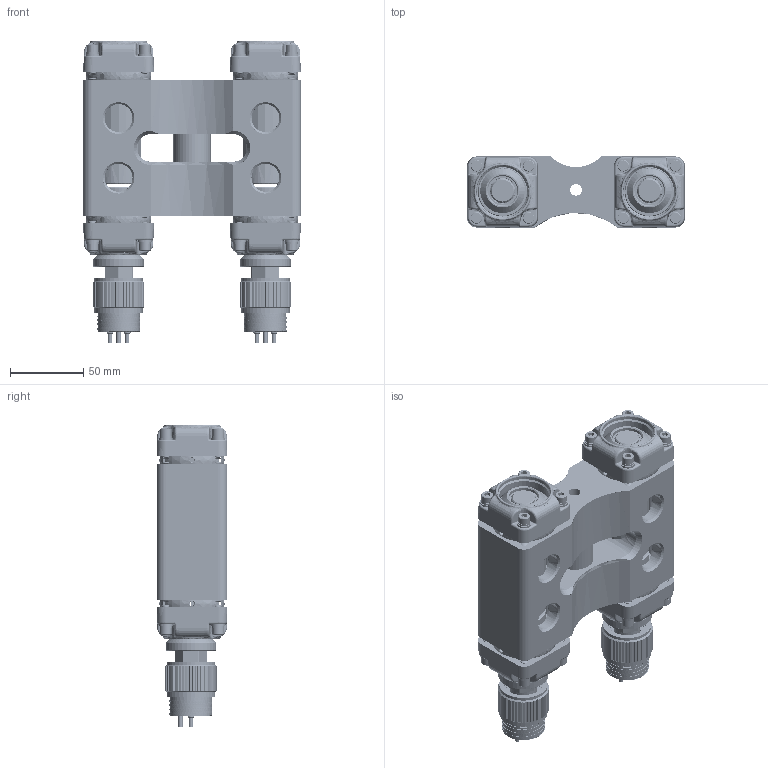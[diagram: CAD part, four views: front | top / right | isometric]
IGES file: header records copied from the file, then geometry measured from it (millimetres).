
Start section: SolidWorks IGES file using analytic representation for surfaces
Global section: file name: S:\3D_Product_Models\Lasers\SL100-BH2-0A_DUAL_BRKT_20190319a.IGS; native system: SolidWorks 2018; preprocessor: SolidWorks 2018; author: Jason.Buss; date: 190319.081203; units: millimetre
Bounding box: 148.34 x 48.26 x 206.12 mm (x, y, z)
Surface area: 180122.9 mm2 (no closed solid volume)
Topology: 0 solids, 0 shells, 2288 faces, 35758 edges, 35758 vertices
Faces by surface type: revolution 1156, bspline 1132
